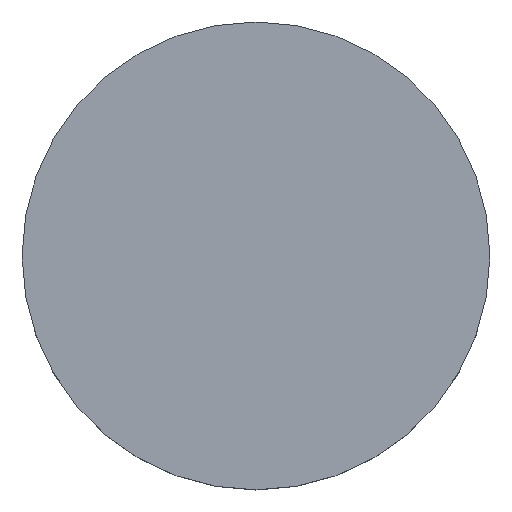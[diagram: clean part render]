
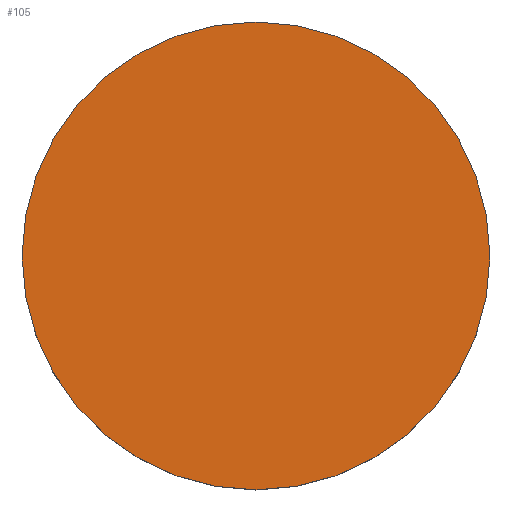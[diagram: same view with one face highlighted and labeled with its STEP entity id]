
A CAD part, top view. The second image highlights one B-rep face of the part: STEP entity #105.
In plain terms, the highlighted planar face has unit normal (0, 0, 1).
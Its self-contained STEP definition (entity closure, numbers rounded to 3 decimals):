
#21 = EDGE_CURVE('',#22,#22,#24,.T.);
#22 = VERTEX_POINT('',#23);
#23 = CARTESIAN_POINT('',(-450.3,120.,17.));
#24 = SURFACE_CURVE('',#25,(#30,#42),.PCURVE_S1.);
#25 = CIRCLE('',#26,44.7);
#26 = AXIS2_PLACEMENT_3D('',#27,#28,#29);
#27 = CARTESIAN_POINT('',(-495.,120.,17.));
#28 = DIRECTION('',(0.,0.,1.));
#29 = DIRECTION('',(1.,0.,-0.));
#30 = PCURVE('',#31,#36);
#31 = CYLINDRICAL_SURFACE('',#32,44.7);
#32 = AXIS2_PLACEMENT_3D('',#33,#34,#35);
#33 = CARTESIAN_POINT('',(-495.,120.,1.));
#34 = DIRECTION('',(0.,0.,1.));
#35 = DIRECTION('',(1.,0.,-0.));
#36 = DEFINITIONAL_REPRESENTATION('',(#37),#41);
#37 = LINE('',#38,#39);
#38 = CARTESIAN_POINT('',(0.,16.));
#39 = VECTOR('',#40,1.);
#40 = DIRECTION('',(1.,0.));
#41 = ( GEOMETRIC_REPRESENTATION_CONTEXT(2) 
PARAMETRIC_REPRESENTATION_CONTEXT() REPRESENTATION_CONTEXT('2D SPACE',''
  ) );
#42 = PCURVE('',#43,#48);
#43 = PLANE('',#44);
#44 = AXIS2_PLACEMENT_3D('',#45,#46,#47);
#45 = CARTESIAN_POINT('',(-495.,120.,17.));
#46 = DIRECTION('',(0.,0.,1.));
#47 = DIRECTION('',(1.,0.,-0.));
#48 = DEFINITIONAL_REPRESENTATION('',(#49),#53);
#49 = CIRCLE('',#50,44.7);
#50 = AXIS2_PLACEMENT_2D('',#51,#52);
#51 = CARTESIAN_POINT('',(0.,0.));
#52 = DIRECTION('',(1.,0.));
#53 = ( GEOMETRIC_REPRESENTATION_CONTEXT(2) 
PARAMETRIC_REPRESENTATION_CONTEXT() REPRESENTATION_CONTEXT('2D SPACE',''
  ) );
#105 = ADVANCED_FACE('',(#106),#43,.T.);
#106 = FACE_BOUND('',#107,.T.);
#107 = EDGE_LOOP('',(#108));
#108 = ORIENTED_EDGE('',*,*,#21,.T.);
